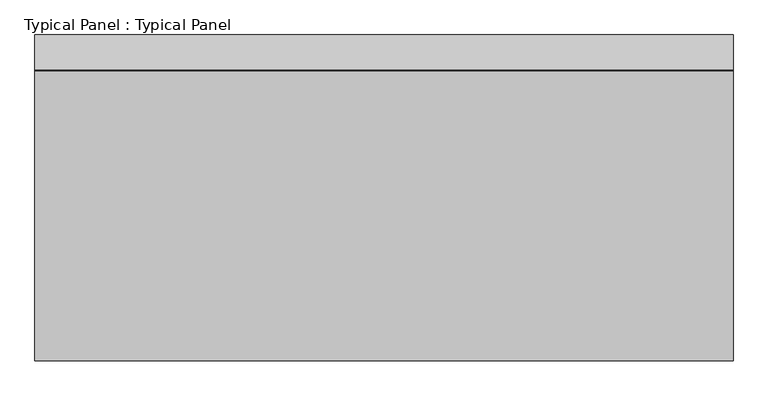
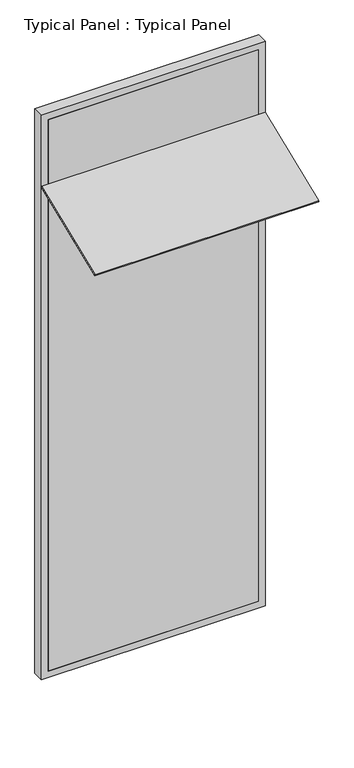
"""IFC4 building model written with IfcOpenShell, lengths in millimetres: plate geometry, Typical Panel : Typical Panel."""

import ifcopenshell
import ifcopenshell.guid

model = None  # the IFC model being written
_history = None  # IfcOwnerHistory: only IFC2X3 demands one
_inside = {}  # id of a spatial element -> (the spatial element, [elements in it])
_under = {}  # id of a project, library or spatial element -> (it, [spatial elements below it])
_declared = {}  # id of a project -> (the project, [libraries it declares])
_typed = {}  # id of a type object -> (the type object, [elements of that type])
_made_of = {}  # id of a material, layer set ... -> (it, [elements and type objects made of it])


def new_model(schema):
    """Start an empty IFC model of exactly this schema.

    Asked for "IFC4X3", IfcOpenShell would pick the latest addendum, in which some entities
    have other attributes; the version numbers below select the first issue.
    IFC2X3 requires an IfcOwnerHistory on every rooted entity: one is made here for all.
    """
    global model, _history
    if schema == "IFC4X3":
        model = ifcopenshell.file(schema_version=(4, 3, 0, 0))
    else:
        model = ifcopenshell.file(schema=schema)
    _inside.clear()
    _under.clear()
    _declared.clear()
    _typed.clear()
    _made_of.clear()
    _history = None
    if model.schema == "IFC2X3":
        org = make("IfcOrganization", Name="unknown")
        user = make(
            "IfcPersonAndOrganization",
            ThePerson=make("IfcPerson", FamilyName="unknown"),
            TheOrganization=org,
        )
        app = make(
            "IfcApplication",
            ApplicationDeveloper=org,
            Version="unknown",
            ApplicationFullName="unknown",
            ApplicationIdentifier="unknown",
        )
        _history = make(
            "IfcOwnerHistory",
            OwningUser=user,
            OwningApplication=app,
            ChangeAction="ADDED",
            CreationDate=0,
        )
    return model


def make(cls, **values):
    """One entity of the class cls with the attributes given. An attribute that is None is left unset."""
    return model.create_entity(
        cls, **{name: value for name, value in values.items() if value is not None}
    )


def rooted(cls, **values):
    """An entity with a GlobalId (a new one), such as an element, a storey or a relation."""
    return make(cls, GlobalId=ifcopenshell.guid.new(), OwnerHistory=_history, **values)


def si_unit(unit_type, name, prefix=None):
    """IfcSIUnit, for example si_unit("LENGTHUNIT", "METRE", prefix="MILLI")."""
    return make("IfcSIUnit", UnitType=unit_type, Prefix=prefix, Name=name)


def assignment(units):
    """IfcUnitAssignment: the units of a project."""
    return None if units is None else make("IfcUnitAssignment", Units=units)


def point(xyz):
    """IfcCartesianPoint."""
    return None if xyz is None else make("IfcCartesianPoint", Coordinates=xyz)


def direction(xyz):
    """IfcDirection."""
    return None if xyz is None else make("IfcDirection", DirectionRatios=xyz)


def frame(location, z_axis=None, x_axis=None):
    """IfcAxis2Placement3D, a coordinate frame: its origin and axes. An axis left out is left unset."""
    return make(
        "IfcAxis2Placement3D",
        Location=point(location),
        Axis=direction(z_axis),
        RefDirection=direction(x_axis),
    )


def origin():
    """The frame at (0, 0, 0) with its axes left unset."""
    return frame((0.0, 0.0, 0.0))


def place(relative_to, where):
    """IfcLocalPlacement: puts the frame where relative to a parent placement (None: the world)."""
    return make(
        "IfcLocalPlacement", PlacementRelTo=relative_to, RelativePlacement=where
    )


def context(
    kind, dimensions, precision=None, world=None, true_north=None, identifier=None
):
    """IfcGeometricRepresentationContext, for example the 3D "Model" context."""
    return make(
        "IfcGeometricRepresentationContext",
        ContextIdentifier=identifier,
        ContextType=kind,
        CoordinateSpaceDimension=dimensions,
        Precision=precision,
        WorldCoordinateSystem=world,
        TrueNorth=true_north,
    )


def project(units=None, contexts=None):
    """IfcProject with its units and contexts."""
    return rooted(
        "IfcProject",
        Name="project",
        RepresentationContexts=contexts,
        UnitsInContext=assignment(units),
    )


def spatial(cls, under=None, at=None, **own):
    """A site, building, storey or space (cls), placed at a placement, below another one or the project."""
    s = rooted(cls, ObjectPlacement=at, **own)
    if under is not None:
        _under.setdefault(under.id(), (under, []))[1].append(s)
    return s


def polyline(points):
    """IfcPolyline through the points."""
    return make("IfcPolyline", Points=[point(p) for p in points])


def outline(outer, holes=None, kind="AREA"):
    """IfcArbitraryClosedProfileDef: a profile drawn as a closed curve; with holes, ...WithVoids."""
    if holes is None:
        return make("IfcArbitraryClosedProfileDef", ProfileType=kind, OuterCurve=outer)
    return make(
        "IfcArbitraryProfileDefWithVoids",
        ProfileType=kind,
        OuterCurve=outer,
        InnerCurves=holes,
    )


def extrude(swept, where, along, depth):
    """IfcExtrudedAreaSolid: the profile swept, set in the frame where, extruded along a direction by depth."""
    return make(
        "IfcExtrudedAreaSolid",
        SweptArea=swept,
        Position=where,
        ExtrudedDirection=direction(along),
        Depth=depth,
    )


def shape(context_of_items, identifier, shape_type, items):
    """IfcShapeRepresentation: the items that make up one representation, for example the "Body"."""
    return make(
        "IfcShapeRepresentation",
        ContextOfItems=context_of_items,
        RepresentationIdentifier=identifier,
        RepresentationType=shape_type,
        Items=items,
    )


def source(mapping_origin, context_of_items, identifier, shape_type, items):
    """IfcRepresentationMap: a shape defined once, which mapped items show again and again."""
    return make(
        "IfcRepresentationMap",
        MappingOrigin=mapping_origin,
        MappedRepresentation=shape(context_of_items, identifier, shape_type, items),
    )


def transform(
    local_origin,
    x_axis=None,
    y_axis=None,
    z_axis=None,
    scale=None,
    scale2=None,
    scale3=None,
    uniform=True,
):
    """IfcCartesianTransformationOperator3D, or its non-uniform kind. x_axis, y_axis, z_axis: its Axis1, 2, 3."""
    if uniform:
        return make(
            "IfcCartesianTransformationOperator3D",
            Axis1=direction(x_axis),
            Axis2=direction(y_axis),
            LocalOrigin=point(local_origin),
            Scale=scale,
            Axis3=direction(z_axis),
        )
    return make(
        "IfcCartesianTransformationOperator3DnonUniform",
        Axis1=direction(x_axis),
        Axis2=direction(y_axis),
        LocalOrigin=point(local_origin),
        Scale=scale,
        Axis3=direction(z_axis),
        Scale2=scale2,
        Scale3=scale3,
    )


def mapped(mapping_source, mapping_target):
    """IfcMappedItem: shows the shape of a source again, moved by a transform."""
    return make(
        "IfcMappedItem", MappingSource=mapping_source, MappingTarget=mapping_target
    )


def made_of(thing, what):
    """Note that an element or type object is made of a material, layer set ...; save() writes the relation."""
    if what is not None:
        _made_of.setdefault(what.id(), (what, []))[1].append(thing)
    return thing


def element(
    cls,
    number,
    at=None,
    inside=None,
    cuts=None,
    type_object=None,
    material=None,
    context=None,
    identifier="Body",
    shape_type=None,
    held_by="IfcProductDefinitionShape",
    body=None,
    shapes=None,
    **own,
):
    """One element of the class cls, such as IfcWall. Its Tag is "e" and its number.

    at: its placement. inside: the storey or other place that contains it. cuts: it is an
    opening in that element (IfcRelVoidsElement). A single representation is given by context,
    identifier, shape_type and body (its items); several are given by shapes. held_by: the class
    of the entity that holds the representations. save() writes the other relations.
    """
    e = rooted(cls, Tag="e%d" % number, ObjectPlacement=at, **own)
    if body is not None:
        shapes = [shape(context, identifier, shape_type, body)]
    if shapes is not None:
        e.Representation = make(held_by, Representations=shapes)
    if inside is not None:
        _inside.setdefault(inside.id(), (inside, []))[1].append(e)
    if cuts is not None:
        rooted(
            "IfcRelVoidsElement", RelatingBuildingElement=cuts, RelatedOpeningElement=e
        )
    if type_object is not None:
        _typed.setdefault(type_object.id(), (type_object, []))[1].append(e)
    return made_of(e, material)


def aggregate(whole, parts):
    """IfcRelAggregates: a whole, such as a stair, and the parts it consists of."""
    return rooted("IfcRelAggregates", RelatingObject=whole, RelatedObjects=parts)


def save(model, path):
    """Write the relations noted so far, then the file.

    IfcRelAggregates (storeys below a building ...), IfcRelContainedInSpatialStructure (elements
    in a storey), IfcRelDefinesByType, IfcRelAssociatesMaterial and IfcRelDeclares: one each for
    every whole, place, type object, material and project.
    """
    for whole, parts in _under.values():
        aggregate(whole, parts)
    for where, things in _inside.values():
        rooted(
            "IfcRelContainedInSpatialStructure",
            RelatedElements=things,
            RelatingStructure=where,
        )
    for kind, things in _typed.values():
        rooted("IfcRelDefinesByType", RelatedObjects=things, RelatingType=kind)
    for what, things in _made_of.values():
        rooted("IfcRelAssociatesMaterial", RelatedObjects=things, RelatingMaterial=what)
    for by, libraries in _declared.values():
        rooted("IfcRelDeclares", RelatingContext=by, RelatedDefinitions=libraries)
    model.write(path)


def typical_panel_typical_panel_3eeb6f99(model_context):
    return source(origin(), model_context, "Body", "SweptSolid", [
        extrude(outline(polyline([(0.0, -669.9999999), (0.0, 0.0), (1500.0, 0.0), (1500.0, -669.9999999), (0.0, -669.9999999)])), frame((750.0, -622.4671166, 3239.7417439), z_axis=(0.0, -0.3746065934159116, 0.9271838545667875), x_axis=(-1.0, 0.0, 0.0)), (0.0, 0.0, 1.0), 10.0),
        extrude(outline(polyline([(0.0, -750.0), (0.0, 750.0), (4000.0, 750.0), (4000.0, -750.0), (0.0, -750.0)]), holes=[polyline([(45.0, 705.0), (45.0, -705.0), (3955.0, -705.0), (3955.0, 705.0), (45.0, 705.0)])]), frame((0.0, -1.5797986, 0.0), z_axis=(0.0, 1.0, 0.0), x_axis=(0.0, 0.0, 1.0)), (0.0, 0.0, 1.0), 75.0),
        extrude(outline(polyline([(705.0, -1.5797986), (-705.0, -1.5797986), (-705.0, 13.4202014), (705.0, 13.4202014), (705.0, -1.5797986)])), frame((0.0, 0.0, 45.0), z_axis=(0.0, 0.0, 1.0), x_axis=(1.0, 0.0, 0.0)), (0.0, 0.0, 1.0), 3910.0),
    ])


if __name__ == "__main__":
    model = new_model("IFC4")
    model_context = context("Model", 3, world=origin())
    ifc_project = project(units=[si_unit("LENGTHUNIT", "METRE", prefix="MILLI")], contexts=[model_context])
    site = spatial("IfcSite", under=ifc_project)
    building = spatial("IfcBuilding", under=site)
    placement = place(None, origin())
    typical_panel_typical_panel_shape = typical_panel_typical_panel_3eeb6f99(model_context)
    element("IfcPlate", 1, ObjectType="Typical Panel : Typical Panel", at=placement, inside=building, context=model_context, shape_type="MappedRepresentation", body=[
        mapped(typical_panel_typical_panel_shape, transform((0.0, 0.0, 0.0), x_axis=(1.0, 0.0, 0.0), y_axis=(0.0, 1.0, 0.0), z_axis=(0.0, 0.0, 1.0))),
    ])
    save(model, "model.ifc")
